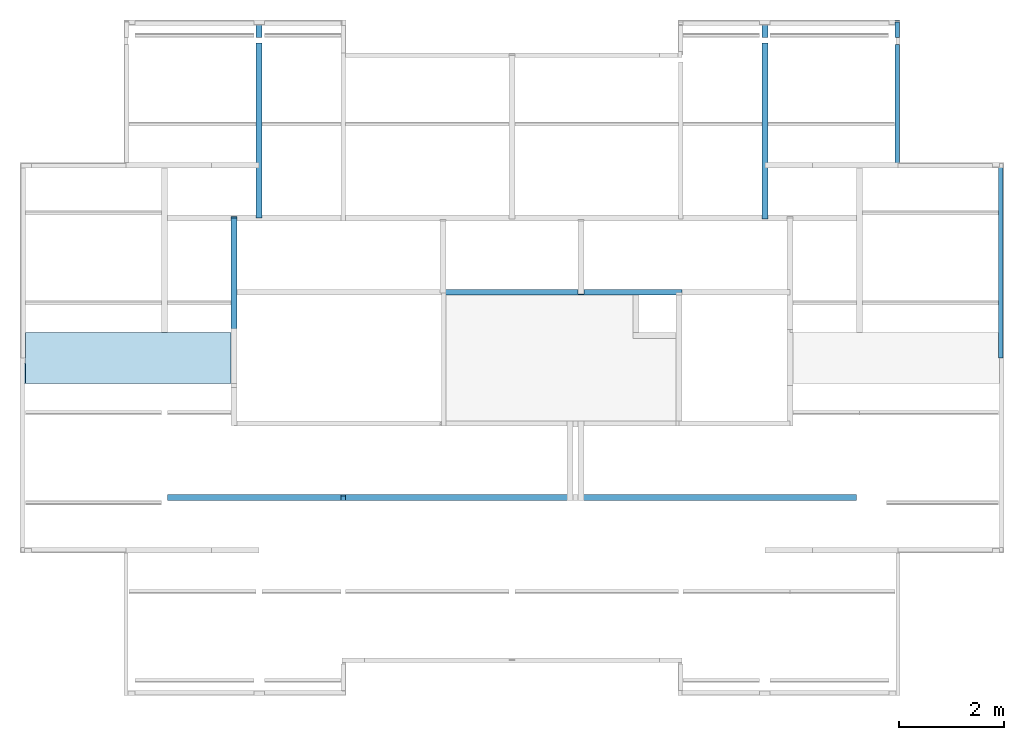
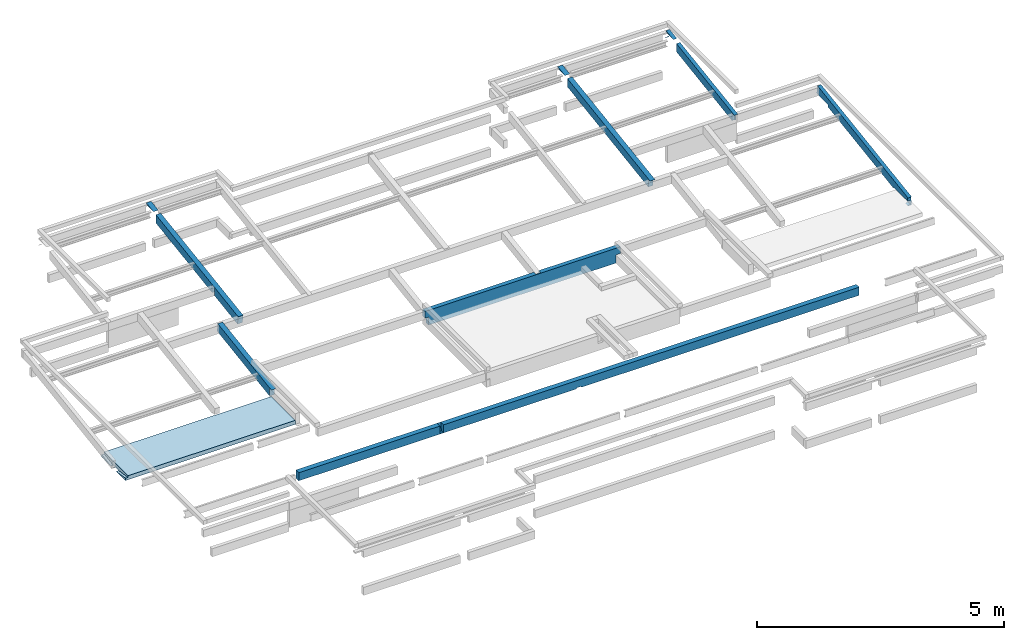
# One storey, part 9 of 9: 7 beams, 1 slab.
"""IFC4 building model written with IfcOpenShell, lengths in metres."""

from ifc_helpers import new_model, entity, si_unit, converted_unit, derived_unit, direction, frame, origin, place, context, subcontext, project, spatial, polygons, source, transform, mapped, material, type_object, type_shapes, element, save


model = new_model("IFC4")

# Units and contexts
model_context = context("Model", 3, precision=1e-05, world=origin(), true_north=direction((6.123031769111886e-17, 1.0)))
body_context = subcontext(model_context, "Body", "Model", "MODEL_VIEW")
ifc_project = project(units=[si_unit("LENGTHUNIT", "METRE"), si_unit("AREAUNIT", "SQUARE_METRE"), si_unit("VOLUMEUNIT", "CUBIC_METRE"), converted_unit("PLANEANGLEUNIT", "DEGREE", entity("IfcRatioMeasure", 0.017453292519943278), si_unit("PLANEANGLEUNIT", "RADIAN"), dimensions=[0, 0, 0, 0, 0, 0, 0]), si_unit("MASSUNIT", "GRAM", prefix="KILO"), derived_unit("MASSDENSITYUNIT", [(si_unit("MASSUNIT", "GRAM", prefix="KILO"), 1), (si_unit("LENGTHUNIT", "METRE"), -3)]), derived_unit("IONCONCENTRATIONUNIT", [(si_unit("MASSUNIT", "GRAM", prefix="KILO"), 1), (si_unit("LENGTHUNIT", "METRE"), -3)]), derived_unit("MOMENTOFINERTIAUNIT", [(si_unit("LENGTHUNIT", "METRE"), 4)]), si_unit("TIMEUNIT", "SECOND"), si_unit("FREQUENCYUNIT", "HERTZ"), si_unit("THERMODYNAMICTEMPERATUREUNIT", "DEGREE_CELSIUS"), derived_unit("THERMALTRANSMITTANCEUNIT", [(si_unit("MASSUNIT", "GRAM", prefix="KILO"), 1), (si_unit("THERMODYNAMICTEMPERATUREUNIT", "KELVIN"), -1), (si_unit("TIMEUNIT", "SECOND"), -3)]), derived_unit("THERMALCONDUCTANCEUNIT", [(si_unit("MASSUNIT", "GRAM", prefix="KILO"), 1), (si_unit("THERMODYNAMICTEMPERATUREUNIT", "KELVIN"), -1), (si_unit("TIMEUNIT", "SECOND"), -3), (si_unit("LENGTHUNIT", "METRE"), 1)]), derived_unit("VOLUMETRICFLOWRATEUNIT", [(si_unit("LENGTHUNIT", "METRE"), 3), (si_unit("TIMEUNIT", "SECOND"), -1)]), derived_unit("MASSFLOWRATEUNIT", [(si_unit("MASSUNIT", "GRAM", prefix="KILO"), 1), (si_unit("TIMEUNIT", "SECOND"), -1)]), derived_unit("ROTATIONALFREQUENCYUNIT", [(si_unit("TIMEUNIT", "SECOND"), -1)]), si_unit("ELECTRICCURRENTUNIT", "AMPERE"), si_unit("ELECTRICVOLTAGEUNIT", "VOLT"), si_unit("POWERUNIT", "WATT"), si_unit("FORCEUNIT", "NEWTON", prefix="KILO"), si_unit("ILLUMINANCEUNIT", "LUX"), si_unit("LUMINOUSFLUXUNIT", "LUMEN"), si_unit("LUMINOUSINTENSITYUNIT", "CANDELA"), derived_unit("USERDEFINED", [(si_unit("MASSUNIT", "GRAM", prefix="KILO"), -1), (si_unit("LENGTHUNIT", "METRE"), -2), (si_unit("TIMEUNIT", "SECOND"), 3), (si_unit("LUMINOUSFLUXUNIT", "LUMEN"), 1)]), derived_unit("USERDEFINED", [(si_unit("MASSUNIT", "GRAM", prefix="KILO"), 1), (si_unit("TIMEUNIT", "SECOND"), -3), (si_unit("LENGTHUNIT", "METRE"), 3), (si_unit("ELECTRICCURRENTUNIT", "AMPERE"), -2)]), derived_unit("SOUNDPOWERUNIT", [(si_unit("MASSUNIT", "GRAM", prefix="KILO"), 1), (si_unit("TIMEUNIT", "SECOND"), -3), (si_unit("LENGTHUNIT", "METRE"), 2)]), derived_unit("SOUNDPRESSUREUNIT", [(si_unit("MASSUNIT", "GRAM", prefix="KILO"), 1), (si_unit("LENGTHUNIT", "METRE"), -1), (si_unit("TIMEUNIT", "SECOND"), -2)]), derived_unit("LINEARVELOCITYUNIT", [(si_unit("LENGTHUNIT", "METRE"), 1), (si_unit("TIMEUNIT", "SECOND"), -1)]), si_unit("PRESSUREUNIT", "PASCAL"), derived_unit("USERDEFINED", [(si_unit("MASSUNIT", "GRAM", prefix="KILO"), 1), (si_unit("LENGTHUNIT", "METRE"), -2), (si_unit("TIMEUNIT", "SECOND"), -2)]), derived_unit("LINEARFORCEUNIT", [(si_unit("MASSUNIT", "GRAM", prefix="KILO"), 1), (si_unit("TIMEUNIT", "SECOND"), -2)]), derived_unit("PLANARFORCEUNIT", [(si_unit("MASSUNIT", "GRAM", prefix="KILO"), 1), (si_unit("LENGTHUNIT", "METRE"), -1), (si_unit("TIMEUNIT", "SECOND"), -2)]), derived_unit("SPECIFICHEATCAPACITYUNIT", [(si_unit("THERMODYNAMICTEMPERATUREUNIT", "KELVIN"), -1), (si_unit("LENGTHUNIT", "METRE"), 2), (si_unit("TIMEUNIT", "SECOND"), -2)]), derived_unit("HEATINGVALUEUNIT", [(si_unit("LENGTHUNIT", "METRE"), 2), (si_unit("TIMEUNIT", "SECOND"), -2)]), derived_unit("VAPORPERMEABILITYUNIT", [(si_unit("LENGTHUNIT", "METRE"), -1), (si_unit("TIMEUNIT", "SECOND"), 1)]), derived_unit("DYNAMICVISCOSITYUNIT", [(si_unit("MASSUNIT", "GRAM", prefix="KILO"), 1), (si_unit("TIMEUNIT", "SECOND"), -1), (si_unit("LENGTHUNIT", "METRE"), -1)]), derived_unit("THERMALEXPANSIONCOEFFICIENTUNIT", [(si_unit("THERMODYNAMICTEMPERATUREUNIT", "KELVIN"), -1)]), derived_unit("MODULUSOFELASTICITYUNIT", [(si_unit("MASSUNIT", "GRAM", prefix="KILO"), 1), (si_unit("LENGTHUNIT", "METRE"), -1), (si_unit("TIMEUNIT", "SECOND"), -2)]), derived_unit("ISOTHERMALMOISTURECAPACITYUNIT", [(si_unit("LENGTHUNIT", "METRE"), 3), (si_unit("MASSUNIT", "GRAM", prefix="KILO"), -1)]), derived_unit("MOISTUREDIFFUSIVITYUNIT", [(si_unit("TIMEUNIT", "SECOND"), -1), (si_unit("LENGTHUNIT", "METRE"), 2)])], contexts=[model_context])

# Site, building, storey
site_placement = place(None, origin())
site = spatial("IfcSite", under=ifc_project, at=site_placement, Name="Default", CompositionType="ELEMENT")
building_placement = place(site_placement, origin())
building = spatial("IfcBuilding", under=site, at=building_placement, Name="Las nubes", CompositionType="ELEMENT")
storey_placement = place(building_placement, frame((0.0, 0.0, 14.100000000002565)))
storey = spatial("IfcBuildingStorey", under=building, at=storey_placement, Name="CUBIERTA", CompositionType="ELEMENT", Elevation=14.100000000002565)

# Beams
ifc_material_1 = material(Name="Concrete, Cast In Situ", Category="Materials")
beam_type_1 = type_object("IfcBeamType", Name="M_Concrete-Rectangular Beam:(0.115x0.20)", PredefinedType="BEAM", material=ifc_material_1)
shared_shape_1 = source(origin(), body_context, "Body", "Tessellation", [
    polygons([(1.191153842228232e-14, 3.7300000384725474, 0.75728727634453), (0.11500000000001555, 3.730000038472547, 0.75728727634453), (0.11500000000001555, 3.7366375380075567, 0.7130372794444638), (1.191153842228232e-14, 3.736637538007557, 0.7130372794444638), (1.1370104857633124e-14, 3.4350000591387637, 0.7130372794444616), (0.11500000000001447, 3.4350000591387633, 0.7130372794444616)], [[[1, 2, 3, 4]], [[2, 1, 5, 6]], [[3, 2, 6]], [[1, 4, 5]], [[4, 3, 6, 5]]], closed=True),
    polygons([(5.414335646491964e-16, 0.0, 0.1977872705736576), (5.414335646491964e-16, 0.029668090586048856, -2.1657342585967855e-15), (0.11500000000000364, 0.029668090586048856, -2.1657342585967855e-15), (0.11500000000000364, 0.0, 0.19778727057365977), (3.2486013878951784e-15, 0.971916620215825, 0.14133727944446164), (0.05750000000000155, 0.9719166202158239, 0.14133727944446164), (0.05750000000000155, 1.0575000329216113, 0.15417479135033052), (3.790034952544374e-15, 1.0575000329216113, 0.15417479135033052), (1.1370104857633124e-14, 3.3375000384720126, 0.4961747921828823), (0.11500000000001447, 3.3375000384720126, 0.49617479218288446), (0.05750000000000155, 0.9575000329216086, 0.3413372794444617), (3.2486013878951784e-15, 0.957500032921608, 0.34139727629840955), (3.790034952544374e-15, 1.0575000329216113, 0.3413372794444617), (0.05750000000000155, 1.0575000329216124, 0.3413372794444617), (0.05750000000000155, 0.9575000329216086, 0.14133727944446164), (3.2486013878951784e-15, 0.957500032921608, 0.14133727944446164), (1.1370104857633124e-14, 3.3375000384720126, 0.6984122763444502), (0.11500000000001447, 3.3375000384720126, 0.6984122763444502)], [[[1, 2, 3, 4]], [[3, 2, 5, 6, 7, 8, 9, 10]], [[11, 12, 13, 14]], [[12, 11, 15, 16]], [[16, 15, 6, 5]], [[14, 13, 8, 7]], [[2, 1, 12, 16, 5]], [[11, 14, 7, 6, 15]], [[17, 18, 10, 9]], [[1, 4, 18, 17, 12]], [[4, 3, 10, 18]], [[13, 12, 17, 9, 8]]], closed=True),
])
type_shapes(beam_type_1, [shared_shape_1])
beam_1_placement = place(storey_placement, frame((4.452499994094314, -3.7675000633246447, 0.2869627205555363)))
element("IfcBeam", 1, at=beam_1_placement, inside=storey, type_object=beam_type_1, material=ifc_material_1, Name="M_Concrete-Rectangular Beam:(0.115x0.20)", ObjectType="M_Concrete-Rectangular Beam:(0.115x0.20)", PredefinedType="BEAM", context=body_context, shape_type="MappedRepresentation", body=[
    mapped(shared_shape_1, transform((0.0, 0.0, 0.0), scale=1.0)),
])
beam_type_2 = type_object("IfcBeamType", Name="M_Concrete-Rectangular Beam:(0.115x0.20)", PredefinedType="BEAM", material=ifc_material_1)
shared_shape_2 = source(origin(), body_context, "Body", "Tessellation", [
    polygons([(0.0015952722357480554, 2.1752618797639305, 0.517237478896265), (0.1165952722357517, 2.175261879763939, 0.517237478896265), (0.1165952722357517, 2.2049299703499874, 0.31945020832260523), (0.0015952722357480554, 2.204929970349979, 0.31945020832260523), (0.0015952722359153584, 0.010261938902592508, 0.19248748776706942), (0.0015952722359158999, 0.00276191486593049, 0.19136248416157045), (0.0015952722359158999, 0.001797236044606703, 0.19121778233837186), (0.05909547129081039, 0.0015952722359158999, 0.19118748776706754), (0.11659527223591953, 0.0017972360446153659, 0.19121778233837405), (0.11659527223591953, 0.002761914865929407, 0.19136248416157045), (0.11659527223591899, 0.010261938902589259, 0.19248748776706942), (0.11659527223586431, 0.7177619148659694, 0.2986124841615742), (0.11659527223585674, 0.8177619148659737, 0.29858748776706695), (0.1165952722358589, 0.8177619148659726, 0.11137500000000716), (0.05909527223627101, 0.8177619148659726, 0.11137500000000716), (0.05909527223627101, 0.7325118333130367, 0.09858748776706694), (0.1165952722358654, 0.7325118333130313, 0.09858748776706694), (0.11659527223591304, 0.1177619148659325, 0.006375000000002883), (0.11659527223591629, 0.07526191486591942, 2.1657342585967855e-15), (0.0015952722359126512, 0.0752619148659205, 2.1657342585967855e-15), (0.0015952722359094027, 0.1177619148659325, 0.006375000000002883), (0.0015952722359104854, 0.0752619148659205, 0.19118748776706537), (0.05909527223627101, 0.7177619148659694, 0.29858748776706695), (0.05909527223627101, 0.7177619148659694, 0.09858748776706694), (0.05909527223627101, 0.8177619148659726, 0.29858748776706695), (0.11659527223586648, 0.7177619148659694, 0.09858748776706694), (0.11659527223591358, 0.0752619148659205, 0.1911874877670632)], [[[1, 2, 3, 4]], [[11, 12, 2, 1, 5, 6, 7, 8, 9, 10]], [[13, 14, 3, 2, 12]], [[23, 24, 16, 15, 25]], [[9, 27, 19, 18, 17, 26, 12, 11]], [[15, 16, 17, 18, 19, 20, 21, 4, 3, 14]], [[1, 4, 21, 20, 22, 7, 6, 5]], [[23, 13, 12]], [[13, 23, 25]], [[27, 8, 22]], [[23, 12, 26, 24]], [[24, 26, 17, 16]], [[15, 14, 13, 25]], [[20, 19, 27, 22]], [[11, 10, 9]], [[7, 22, 8]], [[8, 27, 9]]], closed=True),
])
type_shapes(beam_type_2, [shared_shape_2])
beam_2_placement = place(storey_placement, frame((3.9709047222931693, -5.942761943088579, -0.03248748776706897)))
element("IfcBeam", 2, at=beam_2_placement, inside=storey, type_object=beam_type_2, material=ifc_material_1, Name="M_Concrete-Rectangular Beam:(0.115x0.20)", ObjectType="M_Concrete-Rectangular Beam:(0.115x0.20)", PredefinedType="BEAM", context=body_context, shape_type="MappedRepresentation", body=[
    mapped(shared_shape_2, transform((0.0, 0.0, 0.0), scale=1.0)),
])
beam_type_3 = type_object("IfcBeamType", Name="M_Concrete-Rectangular Beam:(0.085x0.20)", PredefinedType="BEAM", material=ifc_material_1)
shared_shape_3 = source(origin(), body_context, "Body", "Tessellation", [
    polygons([(3.6817482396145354e-14, 3.674956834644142, 0.7534647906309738), (0.08500000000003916, 3.674956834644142, 0.7534647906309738), (0.08500000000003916, 3.70462492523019, 0.5556775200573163), (3.6817482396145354e-14, 3.70462492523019, 0.5556775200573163), (4.331468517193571e-14, 0.49495686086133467, 0.27646479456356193), (4.331468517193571e-14, 0.4874568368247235, 0.2753397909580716), (4.331468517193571e-14, 0.0024568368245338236, 0.2025897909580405), (0.08500000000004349, 0.0024568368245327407, 0.2025897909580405), (0.08500000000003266, 0.03447363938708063, 0.19778727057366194), (0.08500000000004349, 0.004913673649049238, 0.0007208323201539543), (0.08500000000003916, 3.252456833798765, 0.48785230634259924), (0.08500000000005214, 3.2524568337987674, 0.5464647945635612), (0.08500000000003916, 3.6432067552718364, 0.5464647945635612), (3.6817482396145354e-14, 3.6432067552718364, 0.5464647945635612), (3.6817482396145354e-14, 3.2524568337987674, 0.5464647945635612), (3.6817482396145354e-14, 3.252456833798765, 0.48785230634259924), (4.331468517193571e-14, 0.6024568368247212, 0.09035230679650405), (4.331468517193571e-14, 0.6024568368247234, 0.1164647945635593), (4.331468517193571e-14, 0.02227526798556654, 0.11646479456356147), (2.815454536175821e-14, 0.034473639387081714, 0.19778727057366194), (0.05749999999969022, 0.10987342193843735, 0.016464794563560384), (4.331468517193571e-14, 0.1098734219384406, 0.016464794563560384), (4.331468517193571e-14, 0.0072752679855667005, 0.016464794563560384), (0.05749999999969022, 0.0072752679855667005, 0.016464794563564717), (0.05749999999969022, 0.6024568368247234, 0.11646479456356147), (0.05749999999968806, 0.4874568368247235, 0.11646479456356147), (0.05749999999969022, 0.02227526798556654, 0.11646479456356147), (0.05749999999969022, 0.6024568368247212, 0.09035230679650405), (4.331468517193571e-14, 0.004913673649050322, 0.0007208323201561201)], [[[1, 2, 3, 4]], [[2, 1, 5, 6, 7, 8]], [[3, 2, 8, 9, 10, 11, 12, 13]], [[4, 3, 13, 14]], [[1, 4, 14, 15, 16, 17, 18, 19, 20, 7, 6, 5]], [[21, 22, 23, 24]], [[18, 25, 26, 27, 19]], [[25, 18, 17, 28]], [[25, 28, 21, 24, 27, 26]], [[23, 22, 29]], [[20, 9, 8, 7]], [[9, 20, 19, 27, 24, 23, 29, 10]], [[15, 12, 11, 16]], [[12, 15, 14, 13]], [[22, 21, 28, 17, 16, 11, 10, 29]]], closed=True),
    polygons([(4.331468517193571e-14, 0.00010812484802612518, 0.0), (0.08500000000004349, 0.00010812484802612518, 0.0), (0.08500000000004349, 1.0828671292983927e-15, 0.0007208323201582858), (4.331468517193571e-14, 1.0828671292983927e-15, 0.0007208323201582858), (0.08500000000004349, 0.002456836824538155, 0.0003523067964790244), (4.331468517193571e-14, 0.002456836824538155, 0.0003523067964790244)], [[[1, 2, 3, 4]], [[3, 5, 6, 4]], [[3, 2, 5]], [[2, 1, 6, 5]], [[6, 1, 4]]], closed=True),
])
type_shapes(beam_type_3, [shared_shape_3])
beam_3_placement = place(storey_placement, frame((18.58750000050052, -6.427456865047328, -0.11646479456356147)))
element("IfcBeam", 3, at=beam_3_placement, inside=storey, type_object=beam_type_3, material=ifc_material_1, Name="M_Concrete-Rectangular Beam:(0.085x0.20)", ObjectType="M_Concrete-Rectangular Beam:(0.085x0.20)", PredefinedType="BEAM", context=body_context, shape_type="MappedRepresentation", body=[
    mapped(shared_shape_3, transform((0.0, 0.0, 0.0), scale=1.0)),
])
beam_type_4 = type_object("IfcBeamType", Name="M_Concrete-Rectangular Beam:(0.115x0.20)", PredefinedType="BEAM", material=ifc_material_1)
shared_shape_4 = source(origin(), body_context, "Body", "Tessellation", [
    polygons([(13.109997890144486, 0.11500000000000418, 0.19999999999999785), (13.109997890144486, 0.0, 0.2), (13.109997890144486, 0.0, 0.0), (13.109997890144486, 0.11500000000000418, 0.0), (5.414335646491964e-16, 4.764615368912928e-14, 0.0), (5.414335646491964e-16, 4.764615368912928e-14, 0.2), (5.414335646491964e-16, 0.11500000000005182, 0.19999999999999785), (5.414335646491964e-16, 0.11500000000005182, 0.0), (1.684998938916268, 4.2231818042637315e-14, 0.2), (1.799998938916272, 4.2231818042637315e-14, 0.2), (3.2999989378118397, 3.573461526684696e-14, 0.19999999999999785), (3.2999989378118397, 0.11326883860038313, 0.2), (3.384998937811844, 0.11326883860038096, 0.2), (3.384998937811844, 3.573461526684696e-14, 0.19999999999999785), (6.494998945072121, 2.4905943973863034e-14, 0.2), (6.614998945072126, 2.4905943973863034e-14, 0.2), (9.724998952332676, 1.2994405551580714e-14, 0.2), (9.809998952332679, 1.2994405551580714e-14, 0.2), (11.309998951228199, 7.580069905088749e-15, 0.2), (11.424998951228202, 6.497202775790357e-15, 0.2), (6.614998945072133, 0.11500000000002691, 0.0), (6.614998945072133, 0.11500000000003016, 0.006311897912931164), (6.494998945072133, 0.11500000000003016, 0.006311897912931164), (6.494998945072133, 0.115000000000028, 0.0), (6.4949989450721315, 2.382307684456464e-14, 0.0), (3.384998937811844, 3.573461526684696e-14, 0.01493750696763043), (3.2999989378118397, 3.573461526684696e-14, 0.01493750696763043), (6.4949989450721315, 2.382307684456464e-14, 0.02362060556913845), (6.614998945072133, 2.382307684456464e-14, 0.02362060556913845), (6.614998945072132, 2.382307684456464e-14, 0.0), (6.6149989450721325, 0.04393646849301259, 0.017007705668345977), (6.494998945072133, 0.04393646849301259, 0.017007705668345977), (3.299998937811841, 0.08362783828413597, 0.0023933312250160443), (3.384998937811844, 0.08362783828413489, 0.0023933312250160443)], [[[1, 2, 3, 4]], [[5, 6, 7, 8]], [[2, 1, 7, 6, 9, 10, 11, 12, 13, 14, 15, 16, 17, 18, 19, 20]], [[1, 4, 21, 22, 23, 24, 8, 7]], [[5, 8, 24, 25]], [[3, 2, 20, 19, 18, 17, 16, 15, 14, 26, 27, 11, 10, 9, 6, 5, 25, 28, 29, 30]], [[29, 31, 22, 21, 30]], [[23, 32, 28, 25, 24]], [[22, 31, 29, 28, 32, 23]], [[4, 3, 30, 21]], [[33, 34, 13, 12]], [[33, 12, 11, 27]], [[34, 33, 27, 26]], [[13, 34, 26, 14]]], closed=True),
])
type_shapes(beam_type_4, [shared_shape_4])
beam_4_placement = place(storey_placement, frame((2.7675010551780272, -9.139999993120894, 0.27619999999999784)))
element("IfcBeam", 4, at=beam_4_placement, inside=storey, type_object=beam_type_4, material=ifc_material_1, Name="M_Concrete-Rectangular Beam:(0.115x0.20)", ObjectType="M_Concrete-Rectangular Beam:(0.115x0.20)", PredefinedType="BEAM", context=body_context, shape_type="MappedRepresentation", body=[
    mapped(shared_shape_4, transform((0.0, 0.0, 0.0), scale=1.0)),
])
beam_type_5 = type_object("IfcBeamType", Name="M_Concrete-Rectangular Beam:(0.115x0.20)", PredefinedType="BEAM", material=ifc_material_1)
shared_shape_5 = source(origin(), body_context, "Body", "Tessellation", [
    polygons([(2.1657342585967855e-15, 3.7448340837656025, 0.7531124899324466), (0.11500000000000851, 3.744834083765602, 0.7531124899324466), (0.11500000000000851, 3.7514715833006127, 0.7088624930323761), (2.1657342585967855e-15, 3.751471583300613, 0.7088624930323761), (2.1657342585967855e-15, 3.4498341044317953, 0.7088624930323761), (0.11500000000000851, 3.4498341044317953, 0.7088624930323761)], [[[1, 2, 3, 4]], [[2, 1, 5, 6]], [[3, 2, 6]], [[1, 4, 5]], [[4, 3, 6, 5]]], closed=True),
    polygons([(0.11500000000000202, 5.414335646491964e-16, 0.19138737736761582), (0.0, 5.414335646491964e-16, 0.19138737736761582), (0.0, 0.000948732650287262, 0.1850624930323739), (0.11500000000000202, 0.000948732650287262, 0.1850624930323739), (0.05750000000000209, 0.986750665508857, 0.137162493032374), (0.11500000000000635, 0.9867506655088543, 0.137162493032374), (0.11500000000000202, 0.07233404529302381, 2.1657342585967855e-15), (-2.1657342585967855e-15, 0.07233404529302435, 2.1657342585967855e-15), (2.1657342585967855e-15, 3.352334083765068, 0.4920000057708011), (0.11500000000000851, 3.3523340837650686, 0.4920000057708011), (0.11500000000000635, 1.072334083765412, 0.1500000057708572), (0.05750000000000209, 1.072334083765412, 0.1500000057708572), (0.11500000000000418, 0.9723340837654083, 0.3372224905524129), (0.05750000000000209, 0.9723340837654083, 0.337162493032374), (0.05750000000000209, 1.0723340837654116, 0.337162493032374), (0.11500000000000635, 1.072334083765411, 0.337162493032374), (0.11500000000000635, 0.9723340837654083, 0.137162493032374), (0.05750000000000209, 0.9723340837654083, 0.137162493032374), (0.11500000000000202, 0.07233404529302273, 0.1850624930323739), (0.0, 0.07233404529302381, 0.1850624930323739), (2.1657342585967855e-15, 3.352334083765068, 0.6942374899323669), (0.11500000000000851, 3.3523340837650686, 0.6942374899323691)], [[[1, 2, 3, 4]], [[5, 6, 7, 8, 9, 10, 11, 12]], [[13, 14, 15, 16]], [[14, 13, 17, 18]], [[18, 17, 6, 5]], [[16, 15, 12, 11]], [[17, 13, 1, 4, 19, 7, 6]], [[20, 19, 4, 3]], [[19, 20, 8, 7]], [[14, 18, 5, 12, 15]], [[21, 22, 10, 9]], [[2, 1, 13, 22, 21]], [[13, 16, 11, 10, 22]], [[3, 2, 21, 9, 8, 20]]], closed=True),
])
type_shapes(beam_type_5, [shared_shape_5])
beam_5_placement = place(storey_placement, frame((14.077500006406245, -3.7823341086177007, 0.29113750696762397)))
element("IfcBeam", 5, at=beam_5_placement, inside=storey, type_object=beam_type_5, material=ifc_material_1, Name="M_Concrete-Rectangular Beam:(0.115x0.20)", ObjectType="M_Concrete-Rectangular Beam:(0.115x0.20)", PredefinedType="BEAM", context=body_context, shape_type="MappedRepresentation", body=[
    mapped(shared_shape_5, transform((0.0, 0.0, 0.0), scale=1.0)),
])
beam_type_6 = type_object("IfcBeamType", Name="M_Concrete-Rectangular Beam:(0.085x0.20)", PredefinedType="BEAM", material=ifc_material_1)
shared_shape_6 = source(origin(), body_context, "Body", "Tessellation", [
    polygons([(0.08500000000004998, 1.0828671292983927e-15, 0.18960143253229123), (4.5480419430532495e-14, 0.0, 0.18960143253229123), (4.5480419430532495e-14, 2.8226574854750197e-05, 0.18941325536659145), (0.08500000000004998, 2.8226574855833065e-05, 0.18941325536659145), (0.08500000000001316, 2.3492454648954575, 0.5419882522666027), (1.0828671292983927e-14, 2.3492454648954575, 0.5419882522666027), (1.0828671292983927e-14, 2.3492454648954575, 0.3397507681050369), (4.5480419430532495e-14, 0.09924546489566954, 0.0022507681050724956), (4.5480419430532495e-14, 0.09924546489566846, 0.18941325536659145), (0.08500000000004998, 0.08424034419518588, -2.1657342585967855e-15), (0.057500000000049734, 0.08424034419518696, 2.1657342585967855e-15), (0.057500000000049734, 0.09924546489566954, 0.0022507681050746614), (0.08500000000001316, 2.3492454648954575, 0.3397507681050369), (0.08500000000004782, 0.0842403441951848, 0.18941325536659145), (0.05750000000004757, 0.09924546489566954, 0.18941325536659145), (0.057500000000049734, 0.08424034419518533, 0.18941325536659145)], [[[1, 2, 3, 4]], [[2, 1, 5, 6]], [[3, 2, 6, 7, 8, 9]], [[10, 11, 12, 8, 7, 13]], [[14, 4, 3, 9, 15, 16]], [[10, 14, 16, 11]], [[15, 9, 8, 12]], [[16, 15, 12, 11]], [[6, 5, 13, 7]], [[1, 4, 14, 10, 13, 5]]], closed=True),
    polygons([(0.08500000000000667, 2.801413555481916, 0.40757598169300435), (2.1657342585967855e-15, 2.801413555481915, 0.40757598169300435), (6.497202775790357e-15, 2.799245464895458, 0.42202991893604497), (0.08500000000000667, 2.7992454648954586, 0.4220299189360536), (0.08500000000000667, 2.799245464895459, 0.4072507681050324), (2.1657342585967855e-15, 2.799245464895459, 0.4072507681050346)], [[[1, 2, 3, 4]], [[1, 4, 5]], [[4, 3, 6, 5]], [[3, 2, 6]], [[2, 1, 5, 6]]], closed=True),
    polygons([(6.497202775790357e-15, 2.778382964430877, 0.5611132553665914), (0.08500000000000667, 2.778382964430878, 0.5611132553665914), (0.08500000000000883, 2.476745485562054, 0.5611132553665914), (8.662937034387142e-15, 2.476745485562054, 0.5611132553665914), (6.497202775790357e-15, 2.771745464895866, 0.6053632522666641), (0.08500000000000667, 2.7717454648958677, 0.6053632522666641)], [[[1, 2, 3, 4]], [[5, 6, 2, 1]], [[6, 5, 4, 3]], [[5, 1, 4]], [[2, 6, 3]]], closed=True),
])
type_shapes(beam_type_6, [shared_shape_6])
beam_6_placement = place(storey_placement, frame((16.61250000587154, -2.8092454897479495, 0.4388867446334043)))
element("IfcBeam", 6, at=beam_6_placement, inside=storey, type_object=beam_type_6, material=ifc_material_1, Name="M_Concrete-Rectangular Beam:(0.085x0.20)", ObjectType="M_Concrete-Rectangular Beam:(0.085x0.20)", PredefinedType="BEAM", context=body_context, shape_type="MappedRepresentation", body=[
    mapped(shared_shape_6, transform((0.0, 0.0, 0.0), scale=1.0)),
])
ifc_material_2 = material(Name="Concrete - Cast-in-Place Concrete - 28 MPa SLAB", Category="Materials")
beam_type_7 = type_object("IfcBeamType", Name="M_Concrete-Rectangular Beam:(0.10x0.36)", PredefinedType="BEAM", material=ifc_material_2)
shared_shape_7 = source(origin(), body_context, "Body", "Tessellation", [
    polygons([(2.719999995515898, 0.0191166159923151, 0.36600000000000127), (2.604999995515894, 0.0191166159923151, 0.36600000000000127), (2.604999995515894, 0.10000000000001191, 0.36600000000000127), (0.08500000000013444, 0.1000000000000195, 0.36600000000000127), (-1.0828671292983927e-15, 0.1000000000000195, 0.36600000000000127), (-1.0828671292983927e-15, 1.5160139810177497e-14, 0.36600000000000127), (4.580000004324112, 1.0828671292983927e-15, 0.36600000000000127), (4.580000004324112, 0.10000000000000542, 0.36600000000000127), (2.719999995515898, 0.10000000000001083, 0.36600000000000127), (-1.0828671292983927e-15, 1.5160139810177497e-14, 0.19989999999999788), (0.08500000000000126, 1.5160139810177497e-14, 0.19989999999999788), (0.08500000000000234, 1.5160139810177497e-14, 0.09990000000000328), (0.08500000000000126, 1.5160139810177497e-14, 0.0), (2.7249999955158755, 6.497202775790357e-15, 0.0), (4.465000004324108, 1.0828671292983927e-15, 0.0), (4.465000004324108, 1.0828671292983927e-15, 0.19989999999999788), (4.580000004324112, 1.0828671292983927e-15, 0.19989999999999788), (0.08500000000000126, 0.1000000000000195, 0.0), (2.7249999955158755, 0.10000000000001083, 0.0), (4.465000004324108, 0.10000000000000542, 0.0), (2.719999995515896, 0.10000000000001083, 0.17878751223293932), (4.580000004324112, 0.10000000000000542, 0.19989999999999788), (4.465000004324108, 0.10000000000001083, 0.19989999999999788), (0.08500000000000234, 0.1000000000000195, 0.17878751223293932), (0.08500000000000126, 0.1000000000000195, 0.19989999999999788), (-1.0828671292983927e-15, 0.1000000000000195, 0.19989999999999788), (2.604999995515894, 0.10000000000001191, 0.17878751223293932), (2.719999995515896, 0.04836038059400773, 0.17104156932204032), (2.604999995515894, 0.048360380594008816, 0.17104156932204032), (-1.0828671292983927e-15, 0.060875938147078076, 0.19989999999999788), (0.08500000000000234, 0.060875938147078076, 0.19989999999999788)], [[[1, 2, 3, 4, 5, 6, 7, 8, 9]], [[10, 11, 12, 13, 14, 15, 16, 17, 7, 6]], [[13, 18, 19, 20, 15, 14]], [[21, 9, 8, 22, 23, 20, 19, 18, 24, 25, 26, 5, 4, 3, 27]], [[28, 29, 2, 1]], [[28, 1, 9, 21]], [[29, 28, 21, 27]], [[2, 29, 27, 3]], [[11, 10, 30, 26, 25, 31]], [[13, 12, 11, 31, 25, 24, 18]], [[8, 7, 17, 22]], [[16, 23, 22, 17]], [[23, 16, 15, 20]], [[6, 5, 26, 30, 10]]], closed=True),
])
type_shapes(beam_type_7, [shared_shape_7])
beam_7_placement = place(storey_placement, frame((7.977500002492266, -5.225000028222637, -0.09990000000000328)))
element("IfcBeam", 7, at=beam_7_placement, inside=storey, type_object=beam_type_7, material=ifc_material_2, Name="M_Concrete-Rectangular Beam:(0.10x0.36)", ObjectType="M_Concrete-Rectangular Beam:(0.10x0.36)", PredefinedType="BEAM", context=body_context, shape_type="MappedRepresentation", body=[
    mapped(shared_shape_7, transform((0.0, 0.0, 0.0), scale=1.0)),
])

# Slab
slab_type = type_object("IfcSlabType", Name="Floor:PLACA ESTRUCTURAL 0.10", PredefinedType="FLOOR", material=ifc_material_2)
slab_placement = place(storey_placement, origin())
element("IfcSlab", 8, at=slab_placement, inside=storey, type_object=slab_type, material=ifc_material_2, Name="Floor:PLACA ESTRUCTURAL 0.10", ObjectType="Floor:PLACA ESTRUCTURAL 0.10", PredefinedType="FLOOR", context=body_context, shape_type="Tessellation", body=[
    polygons([(3.972499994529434, -6.910000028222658, -0.10000000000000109), (-6.497202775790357e-15, -6.910000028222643, -0.10000000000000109), (-6.497202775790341e-15, -6.532416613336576, -0.09999999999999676), (0.05750000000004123, -6.532416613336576, -0.10000000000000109), (0.05750000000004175, -6.398963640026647, -0.09999999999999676), (-6.497202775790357e-15, -6.398963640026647, -0.10000000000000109), (-6.497202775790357e-15, -6.397081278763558, -0.10000000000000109), (0.057500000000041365, -6.397081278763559, -0.10000000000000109), (0.057500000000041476, -6.317583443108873, -0.10000000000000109), (-6.497202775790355e-15, -6.317583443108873, -0.10000000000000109), (-6.497202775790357e-15, -5.940000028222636, -0.10000000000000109), (3.9724999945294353, -5.9400000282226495, -0.10000000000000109), (3.9724999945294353, -6.365000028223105, -0.09999999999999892), (3.972499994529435, -6.485000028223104, -0.09999999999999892), (3.972499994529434, -6.910000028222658, 0.0), (3.9724999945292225, -5.9400000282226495, 0.0), (0.0575000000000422, -5.940000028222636, 0.0), (0.057500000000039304, -6.910000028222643, 0.0), (-6.497202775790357e-15, -6.910000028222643, -0.04336248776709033), (0.057500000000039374, -6.910000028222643, -0.04336248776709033), (-6.497202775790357e-15, -5.940000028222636, -0.043362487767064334), (0.05750000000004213, -5.940000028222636, -0.043362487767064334), (0.05750000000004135, -6.3980224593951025, -0.09372546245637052), (-6.497202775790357e-15, -6.3980224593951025, -0.09372546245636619)], [[[1, 2, 3, 4, 5, 6, 7, 8, 9, 10, 11, 12, 13, 14]], [[15, 16, 17, 18]], [[3, 2, 19]], [[2, 1, 15, 18, 20, 19]], [[15, 1, 14, 13, 12, 16]], [[12, 11, 21, 22, 17, 16]], [[22, 9, 8, 23, 5, 4, 20, 18, 17]], [[9, 22, 21, 10]], [[20, 4, 3, 19]], [[8, 7, 24, 23]], [[5, 23, 24, 6]], [[7, 6, 24]], [[10, 21, 11]]], closed=True),
])

save(model, "model.ifc")
